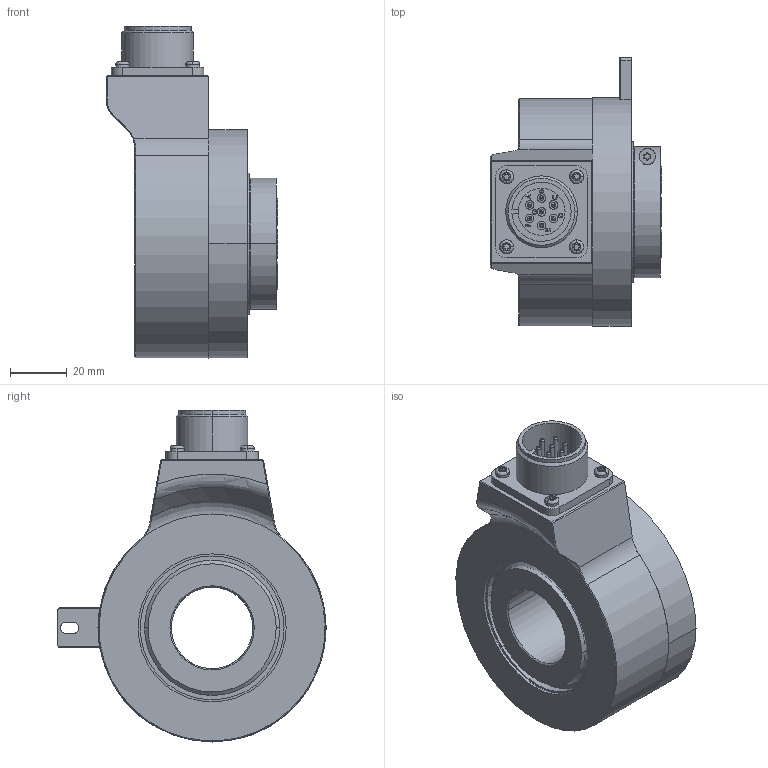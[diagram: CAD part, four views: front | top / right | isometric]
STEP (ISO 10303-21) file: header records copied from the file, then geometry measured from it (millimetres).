
FILE_DESCRIPTION (( 'STEP AP203' ), '1' );
FILE_NAME ('K80I.OXX.XXXXX.XH1188A.6XRCD.step', '2025-12-09T07:43:45', ( '' ), ( '' ), 'SwSTEP 2.0', 'SolidWorks 2021', '' );
FILE_SCHEMA (( 'CONFIG_CONTROL_DESIGN' ));
Length unit declared in the file: millimetre
Products named in the file (1): K80I.OXX.XXXXX.XH1188A.6XRCD
Bounding box: 60.2 x 94.28 x 116.58 mm (x, y, z)
Volume: 218733.2 mm3; surface area: 61323.4 mm2
Topology: 7 solids, 7 shells, 539 faces, 1365 edges, 881 vertices
Faces by surface type: plane 226, cylinder 208, bspline 50, cone 39, torus 16
Entity records: 20251 total; most frequent: CARTESIAN_POINT 7201, ORIENTED_EDGE 2714, DIRECTION 2681, EDGE_CURVE 1357, AXIS2_PLACEMENT_3D 978, VERTEX_POINT 881, LINE 725, VECTOR 725
